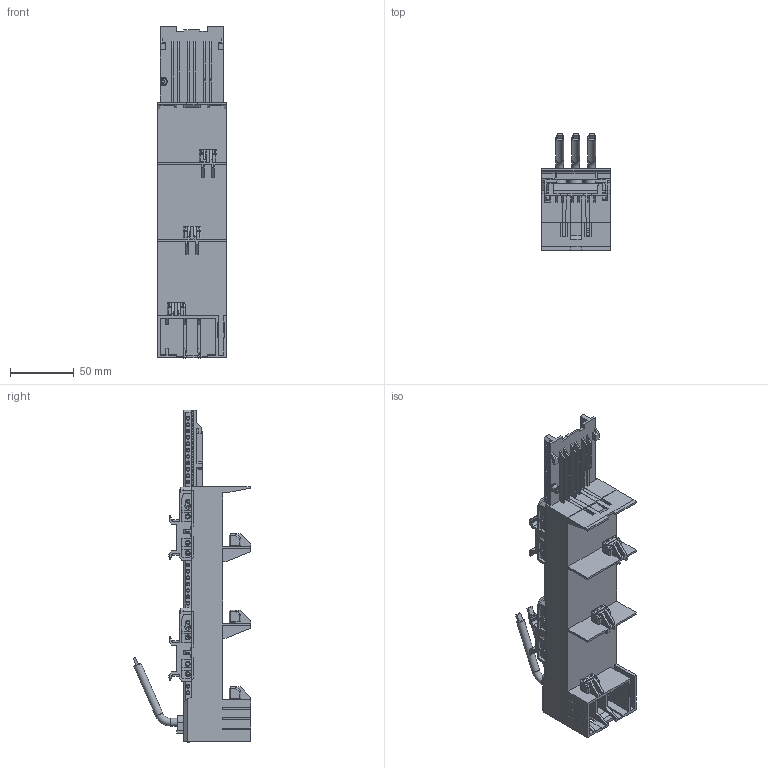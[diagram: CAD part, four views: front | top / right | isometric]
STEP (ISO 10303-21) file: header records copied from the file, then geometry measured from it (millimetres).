
FILE_DESCRIPTION (( 'STEP AP203' ), '1' );
FILE_NAME ('55367.STEP', '2021-08-18T05:41:17', ( '' ), ( '' ), 'SwSTEP 2.0', 'SolidWorks 2017', '' );
FILE_SCHEMA (( 'CONFIG_CONTROL_DESIGN' ));
Products named in the file (2): 55367
Bounding box: 54.05 x 92.2 x 260.2 mm (x, y, z)
Volume: 341786.7 mm3; surface area: 107252 mm2
Topology: 10 solids, 27 shells, 2681 faces, 7403 edges, 4948 vertices
Faces by surface type: plane 1819, cylinder 515, cone 226, bspline 118, torus 3
Full cylindrical faces by diameter (mm): 1.988 x176, 2.584 x1, 2.6 x28, 2.982 x12, 3.479 x8, 4.2 x4, 5.169 x2, 5.964 x11, 6 x6
Entity records: 116198 total; most frequent: CARTESIAN_POINT 53675, ORIENTED_EDGE 13452, DIRECTION 11000, EDGE_CURVE 6726, VERTEX_POINT 4735, VECTOR 4290, LINE 4290, EDGE_LOOP 3409
